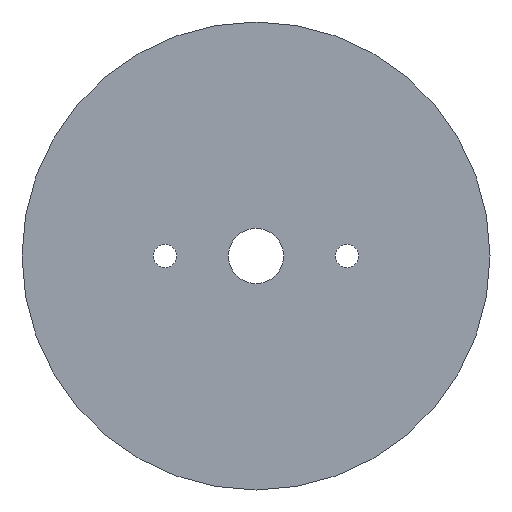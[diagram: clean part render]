
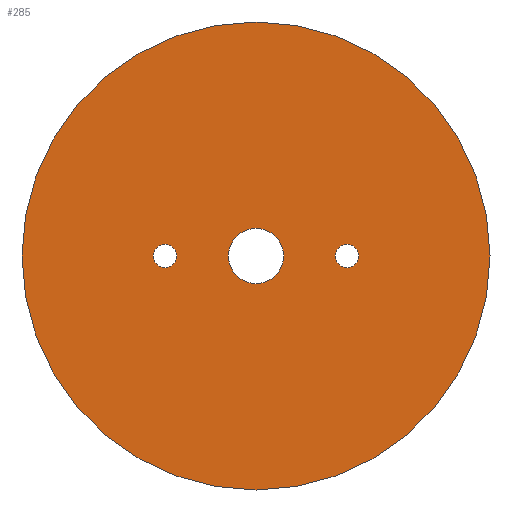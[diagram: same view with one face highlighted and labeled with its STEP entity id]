
A CAD part, left-side view. The second image highlights one B-rep face of the part: STEP entity #285.
In plain terms, the highlighted planar face has unit normal (-1, 0, 0).
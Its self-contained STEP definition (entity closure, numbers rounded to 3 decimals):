
#126 = CYLINDRICAL_SURFACE('',#127,36.);
#127 = AXIS2_PLACEMENT_3D('',#128,#129,#130);
#128 = CARTESIAN_POINT('',(52.,0.,0.));
#129 = DIRECTION('',(1.,0.,0.));
#130 = DIRECTION('',(-0.,0.,1.));
#181 = VERTEX_POINT('',#182);
#182 = CARTESIAN_POINT('',(52.,0.,36.));
#203 = EDGE_CURVE('',#181,#181,#204,.T.);
#204 = SURFACE_CURVE('',#205,(#210,#217),.PCURVE_S1.);
#205 = CIRCLE('',#206,36.);
#206 = AXIS2_PLACEMENT_3D('',#207,#208,#209);
#207 = CARTESIAN_POINT('',(52.,0.,0.));
#208 = DIRECTION('',(1.,0.,0.));
#209 = DIRECTION('',(-0.,0.,1.));
#210 = PCURVE('',#126,#211);
#211 = DEFINITIONAL_REPRESENTATION('',(#212),#216);
#212 = LINE('',#213,#214);
#213 = CARTESIAN_POINT('',(0.,0.));
#214 = VECTOR('',#215,1.);
#215 = DIRECTION('',(1.,0.));
#216 = ( GEOMETRIC_REPRESENTATION_CONTEXT(2) 
PARAMETRIC_REPRESENTATION_CONTEXT() REPRESENTATION_CONTEXT('2D SPACE',''
  ) );
#217 = PCURVE('',#218,#223);
#218 = PLANE('',#219);
#219 = AXIS2_PLACEMENT_3D('',#220,#221,#222);
#220 = CARTESIAN_POINT('',(52.,0.,0.));
#221 = DIRECTION('',(1.,0.,0.));
#222 = DIRECTION('',(-0.,0.,1.));
#223 = DEFINITIONAL_REPRESENTATION('',(#224),#228);
#224 = CIRCLE('',#225,36.);
#225 = AXIS2_PLACEMENT_2D('',#226,#227);
#226 = CARTESIAN_POINT('',(0.,0.));
#227 = DIRECTION('',(1.,0.));
#228 = ( GEOMETRIC_REPRESENTATION_CONTEXT(2) 
PARAMETRIC_REPRESENTATION_CONTEXT() REPRESENTATION_CONTEXT('2D SPACE',''
  ) );
#285 = ADVANCED_FACE('',(#286,#289,#320,#351),#218,.F.);
#286 = FACE_BOUND('',#287,.F.);
#287 = EDGE_LOOP('',(#288));
#288 = ORIENTED_EDGE('',*,*,#203,.T.);
#289 = FACE_BOUND('',#290,.F.);
#290 = EDGE_LOOP('',(#291));
#291 = ORIENTED_EDGE('',*,*,#292,.F.);
#292 = EDGE_CURVE('',#293,#293,#295,.T.);
#293 = VERTEX_POINT('',#294);
#294 = CARTESIAN_POINT('',(52.,-14.,1.8));
#295 = SURFACE_CURVE('',#296,(#301,#308),.PCURVE_S1.);
#296 = CIRCLE('',#297,1.8);
#297 = AXIS2_PLACEMENT_3D('',#298,#299,#300);
#298 = CARTESIAN_POINT('',(52.,-14.,0.));
#299 = DIRECTION('',(1.,0.,0.));
#300 = DIRECTION('',(-0.,0.,1.));
#301 = PCURVE('',#218,#302);
#302 = DEFINITIONAL_REPRESENTATION('',(#303),#307);
#303 = CIRCLE('',#304,1.8);
#304 = AXIS2_PLACEMENT_2D('',#305,#306);
#305 = CARTESIAN_POINT('',(0.,14.));
#306 = DIRECTION('',(1.,0.));
#307 = ( GEOMETRIC_REPRESENTATION_CONTEXT(2) 
PARAMETRIC_REPRESENTATION_CONTEXT() REPRESENTATION_CONTEXT('2D SPACE',''
  ) );
#308 = PCURVE('',#309,#314);
#309 = CYLINDRICAL_SURFACE('',#310,1.8);
#310 = AXIS2_PLACEMENT_3D('',#311,#312,#313);
#311 = CARTESIAN_POINT('',(51.,-14.,0.));
#312 = DIRECTION('',(1.,0.,0.));
#313 = DIRECTION('',(-0.,0.,1.));
#314 = DEFINITIONAL_REPRESENTATION('',(#315),#319);
#315 = LINE('',#316,#317);
#316 = CARTESIAN_POINT('',(0.,1.));
#317 = VECTOR('',#318,1.);
#318 = DIRECTION('',(1.,0.));
#319 = ( GEOMETRIC_REPRESENTATION_CONTEXT(2) 
PARAMETRIC_REPRESENTATION_CONTEXT() REPRESENTATION_CONTEXT('2D SPACE',''
  ) );
#320 = FACE_BOUND('',#321,.F.);
#321 = EDGE_LOOP('',(#322));
#322 = ORIENTED_EDGE('',*,*,#323,.F.);
#323 = EDGE_CURVE('',#324,#324,#326,.T.);
#324 = VERTEX_POINT('',#325);
#325 = CARTESIAN_POINT('',(52.,14.,1.8));
#326 = SURFACE_CURVE('',#327,(#332,#339),.PCURVE_S1.);
#327 = CIRCLE('',#328,1.8);
#328 = AXIS2_PLACEMENT_3D('',#329,#330,#331);
#329 = CARTESIAN_POINT('',(52.,14.,0.));
#330 = DIRECTION('',(1.,0.,0.));
#331 = DIRECTION('',(-0.,0.,1.));
#332 = PCURVE('',#218,#333);
#333 = DEFINITIONAL_REPRESENTATION('',(#334),#338);
#334 = CIRCLE('',#335,1.8);
#335 = AXIS2_PLACEMENT_2D('',#336,#337);
#336 = CARTESIAN_POINT('',(0.,-14.));
#337 = DIRECTION('',(1.,0.));
#338 = ( GEOMETRIC_REPRESENTATION_CONTEXT(2) 
PARAMETRIC_REPRESENTATION_CONTEXT() REPRESENTATION_CONTEXT('2D SPACE',''
  ) );
#339 = PCURVE('',#340,#345);
#340 = CYLINDRICAL_SURFACE('',#341,1.8);
#341 = AXIS2_PLACEMENT_3D('',#342,#343,#344);
#342 = CARTESIAN_POINT('',(51.,14.,0.));
#343 = DIRECTION('',(1.,0.,0.));
#344 = DIRECTION('',(-0.,0.,1.));
#345 = DEFINITIONAL_REPRESENTATION('',(#346),#350);
#346 = LINE('',#347,#348);
#347 = CARTESIAN_POINT('',(0.,1.));
#348 = VECTOR('',#349,1.);
#349 = DIRECTION('',(1.,0.));
#350 = ( GEOMETRIC_REPRESENTATION_CONTEXT(2) 
PARAMETRIC_REPRESENTATION_CONTEXT() REPRESENTATION_CONTEXT('2D SPACE',''
  ) );
#351 = FACE_BOUND('',#352,.F.);
#352 = EDGE_LOOP('',(#353));
#353 = ORIENTED_EDGE('',*,*,#354,.F.);
#354 = EDGE_CURVE('',#355,#355,#357,.T.);
#355 = VERTEX_POINT('',#356);
#356 = CARTESIAN_POINT('',(52.,0.,4.25));
#357 = SURFACE_CURVE('',#358,(#363,#370),.PCURVE_S1.);
#358 = CIRCLE('',#359,4.25);
#359 = AXIS2_PLACEMENT_3D('',#360,#361,#362);
#360 = CARTESIAN_POINT('',(52.,0.,0.));
#361 = DIRECTION('',(1.,0.,0.));
#362 = DIRECTION('',(-0.,0.,1.));
#363 = PCURVE('',#218,#364);
#364 = DEFINITIONAL_REPRESENTATION('',(#365),#369);
#365 = CIRCLE('',#366,4.25);
#366 = AXIS2_PLACEMENT_2D('',#367,#368);
#367 = CARTESIAN_POINT('',(0.,0.));
#368 = DIRECTION('',(1.,0.));
#369 = ( GEOMETRIC_REPRESENTATION_CONTEXT(2) 
PARAMETRIC_REPRESENTATION_CONTEXT() REPRESENTATION_CONTEXT('2D SPACE',''
  ) );
#370 = PCURVE('',#371,#376);
#371 = CYLINDRICAL_SURFACE('',#372,4.25);
#372 = AXIS2_PLACEMENT_3D('',#373,#374,#375);
#373 = CARTESIAN_POINT('',(52.,0.,0.));
#374 = DIRECTION('',(1.,0.,0.));
#375 = DIRECTION('',(-0.,0.,1.));
#376 = DEFINITIONAL_REPRESENTATION('',(#377),#381);
#377 = LINE('',#378,#379);
#378 = CARTESIAN_POINT('',(0.,0.));
#379 = VECTOR('',#380,1.);
#380 = DIRECTION('',(1.,0.));
#381 = ( GEOMETRIC_REPRESENTATION_CONTEXT(2) 
PARAMETRIC_REPRESENTATION_CONTEXT() REPRESENTATION_CONTEXT('2D SPACE',''
  ) );
